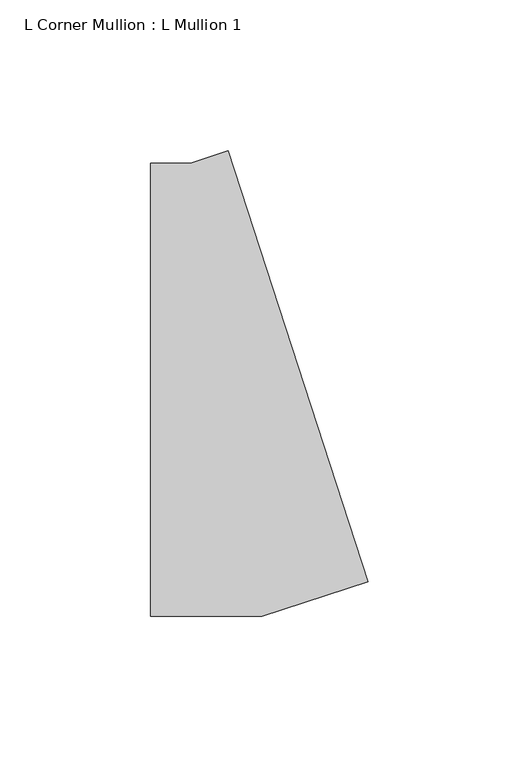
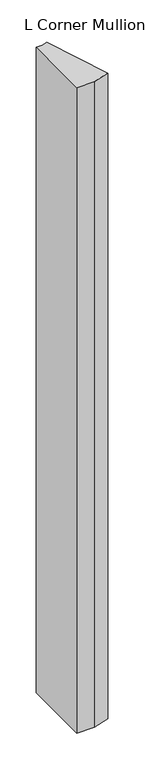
"""IFC4 building model written with IfcOpenShell, lengths in millimetres: member geometry, L Corner Mullion : L Mullion 1."""

from ifc_helpers import new_model, si_unit, frame, origin, place, context, project, spatial, polyline, outline, extrude, source, transform, mapped, element, save


def l_corner_mullion_l_mullion_1_99ff24db(model_context):
    return source(origin(), model_context, "Body", "SweptSolid", [
        extrude(outline(polyline([(46.9526875, -63.6038139), (11.878833, -75.0), (-25.0, -75.0), (-25.0, 75.0), (-11.878833, 75.0), (0.6001383, 79.0546636), (46.9526875, -63.6038139)])), frame((0.0, 0.0, -1450.0), z_axis=(0.0, 0.0, 1.0), x_axis=(1.0, 0.0, 0.0)), (0.0, 0.0, 1.0), 1450.0),
    ])


if __name__ == "__main__":
    model = new_model("IFC4")
    model_context = context("Model", 3, world=origin())
    ifc_project = project(units=[si_unit("LENGTHUNIT", "METRE", prefix="MILLI")], contexts=[model_context])
    site = spatial("IfcSite", under=ifc_project)
    building = spatial("IfcBuilding", under=site)
    placement = place(None, origin())
    l_corner_mullion_l_mullion_1_shape = l_corner_mullion_l_mullion_1_99ff24db(model_context)
    element("IfcMember", 1, ObjectType="L Corner Mullion : L Mullion 1", at=placement, inside=building, context=model_context, shape_type="MappedRepresentation", body=[
        mapped(l_corner_mullion_l_mullion_1_shape, transform((0.0, 0.0, 0.0), x_axis=(1.0, 0.0, 0.0), y_axis=(0.0, 1.0, 0.0), z_axis=(0.0, 0.0, 1.0))),
    ])
    save(model, "model.ifc")
